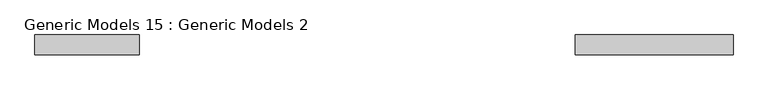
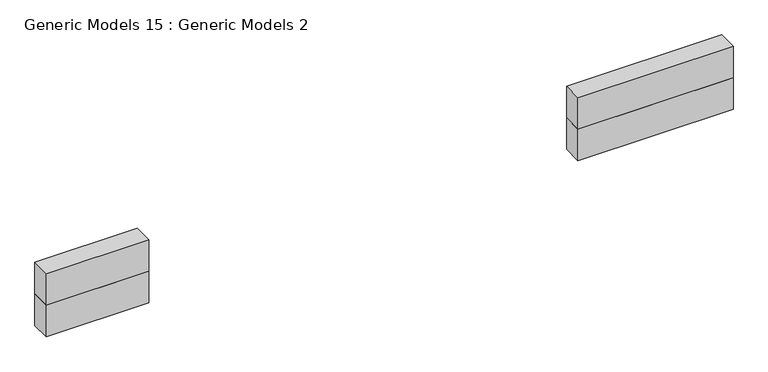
"""IFC4 building model written with IfcOpenShell, lengths in millimetres: proxy geometry, Generic Models 15 : Generic Models 2."""

import ifcopenshell
import ifcopenshell.guid

model = None  # the IFC model being written
_history = None  # IfcOwnerHistory: only IFC2X3 demands one
_inside = {}  # id of a spatial element -> (the spatial element, [elements in it])
_under = {}  # id of a project, library or spatial element -> (it, [spatial elements below it])
_declared = {}  # id of a project -> (the project, [libraries it declares])
_typed = {}  # id of a type object -> (the type object, [elements of that type])
_made_of = {}  # id of a material, layer set ... -> (it, [elements and type objects made of it])


def new_model(schema):
    """Start an empty IFC model of exactly this schema.

    Asked for "IFC4X3", IfcOpenShell would pick the latest addendum, in which some entities
    have other attributes; the version numbers below select the first issue.
    IFC2X3 requires an IfcOwnerHistory on every rooted entity: one is made here for all.
    """
    global model, _history
    if schema == "IFC4X3":
        model = ifcopenshell.file(schema_version=(4, 3, 0, 0))
    else:
        model = ifcopenshell.file(schema=schema)
    _inside.clear()
    _under.clear()
    _declared.clear()
    _typed.clear()
    _made_of.clear()
    _history = None
    if model.schema == "IFC2X3":
        org = make("IfcOrganization", Name="unknown")
        user = make(
            "IfcPersonAndOrganization",
            ThePerson=make("IfcPerson", FamilyName="unknown"),
            TheOrganization=org,
        )
        app = make(
            "IfcApplication",
            ApplicationDeveloper=org,
            Version="unknown",
            ApplicationFullName="unknown",
            ApplicationIdentifier="unknown",
        )
        _history = make(
            "IfcOwnerHistory",
            OwningUser=user,
            OwningApplication=app,
            ChangeAction="ADDED",
            CreationDate=0,
        )
    return model


def make(cls, **values):
    """One entity of the class cls with the attributes given. An attribute that is None is left unset."""
    return model.create_entity(
        cls, **{name: value for name, value in values.items() if value is not None}
    )


def rooted(cls, **values):
    """An entity with a GlobalId (a new one), such as an element, a storey or a relation."""
    return make(cls, GlobalId=ifcopenshell.guid.new(), OwnerHistory=_history, **values)


def si_unit(unit_type, name, prefix=None):
    """IfcSIUnit, for example si_unit("LENGTHUNIT", "METRE", prefix="MILLI")."""
    return make("IfcSIUnit", UnitType=unit_type, Prefix=prefix, Name=name)


def assignment(units):
    """IfcUnitAssignment: the units of a project."""
    return None if units is None else make("IfcUnitAssignment", Units=units)


def point(xyz):
    """IfcCartesianPoint."""
    return None if xyz is None else make("IfcCartesianPoint", Coordinates=xyz)


def direction(xyz):
    """IfcDirection."""
    return None if xyz is None else make("IfcDirection", DirectionRatios=xyz)


def frame(location, z_axis=None, x_axis=None):
    """IfcAxis2Placement3D, a coordinate frame: its origin and axes. An axis left out is left unset."""
    return make(
        "IfcAxis2Placement3D",
        Location=point(location),
        Axis=direction(z_axis),
        RefDirection=direction(x_axis),
    )


def origin():
    """The frame at (0, 0, 0) with its axes left unset."""
    return frame((0.0, 0.0, 0.0))


def place(relative_to, where):
    """IfcLocalPlacement: puts the frame where relative to a parent placement (None: the world)."""
    return make(
        "IfcLocalPlacement", PlacementRelTo=relative_to, RelativePlacement=where
    )


def context(
    kind, dimensions, precision=None, world=None, true_north=None, identifier=None
):
    """IfcGeometricRepresentationContext, for example the 3D "Model" context."""
    return make(
        "IfcGeometricRepresentationContext",
        ContextIdentifier=identifier,
        ContextType=kind,
        CoordinateSpaceDimension=dimensions,
        Precision=precision,
        WorldCoordinateSystem=world,
        TrueNorth=true_north,
    )


def project(units=None, contexts=None):
    """IfcProject with its units and contexts."""
    return rooted(
        "IfcProject",
        Name="project",
        RepresentationContexts=contexts,
        UnitsInContext=assignment(units),
    )


def spatial(cls, under=None, at=None, **own):
    """A site, building, storey or space (cls), placed at a placement, below another one or the project."""
    s = rooted(cls, ObjectPlacement=at, **own)
    if under is not None:
        _under.setdefault(under.id(), (under, []))[1].append(s)
    return s


def polyline(points):
    """IfcPolyline through the points."""
    return make("IfcPolyline", Points=[point(p) for p in points])


def outline(outer, holes=None, kind="AREA"):
    """IfcArbitraryClosedProfileDef: a profile drawn as a closed curve; with holes, ...WithVoids."""
    if holes is None:
        return make("IfcArbitraryClosedProfileDef", ProfileType=kind, OuterCurve=outer)
    return make(
        "IfcArbitraryProfileDefWithVoids",
        ProfileType=kind,
        OuterCurve=outer,
        InnerCurves=holes,
    )


def extrude(swept, where, along, depth):
    """IfcExtrudedAreaSolid: the profile swept, set in the frame where, extruded along a direction by depth."""
    return make(
        "IfcExtrudedAreaSolid",
        SweptArea=swept,
        Position=where,
        ExtrudedDirection=direction(along),
        Depth=depth,
    )


def shape(context_of_items, identifier, shape_type, items):
    """IfcShapeRepresentation: the items that make up one representation, for example the "Body"."""
    return make(
        "IfcShapeRepresentation",
        ContextOfItems=context_of_items,
        RepresentationIdentifier=identifier,
        RepresentationType=shape_type,
        Items=items,
    )


def source(mapping_origin, context_of_items, identifier, shape_type, items):
    """IfcRepresentationMap: a shape defined once, which mapped items show again and again."""
    return make(
        "IfcRepresentationMap",
        MappingOrigin=mapping_origin,
        MappedRepresentation=shape(context_of_items, identifier, shape_type, items),
    )


def transform(
    local_origin,
    x_axis=None,
    y_axis=None,
    z_axis=None,
    scale=None,
    scale2=None,
    scale3=None,
    uniform=True,
):
    """IfcCartesianTransformationOperator3D, or its non-uniform kind. x_axis, y_axis, z_axis: its Axis1, 2, 3."""
    if uniform:
        return make(
            "IfcCartesianTransformationOperator3D",
            Axis1=direction(x_axis),
            Axis2=direction(y_axis),
            LocalOrigin=point(local_origin),
            Scale=scale,
            Axis3=direction(z_axis),
        )
    return make(
        "IfcCartesianTransformationOperator3DnonUniform",
        Axis1=direction(x_axis),
        Axis2=direction(y_axis),
        LocalOrigin=point(local_origin),
        Scale=scale,
        Axis3=direction(z_axis),
        Scale2=scale2,
        Scale3=scale3,
    )


def mapped(mapping_source, mapping_target):
    """IfcMappedItem: shows the shape of a source again, moved by a transform."""
    return make(
        "IfcMappedItem", MappingSource=mapping_source, MappingTarget=mapping_target
    )


def made_of(thing, what):
    """Note that an element or type object is made of a material, layer set ...; save() writes the relation."""
    if what is not None:
        _made_of.setdefault(what.id(), (what, []))[1].append(thing)
    return thing


def element(
    cls,
    number,
    at=None,
    inside=None,
    cuts=None,
    type_object=None,
    material=None,
    context=None,
    identifier="Body",
    shape_type=None,
    held_by="IfcProductDefinitionShape",
    body=None,
    shapes=None,
    **own,
):
    """One element of the class cls, such as IfcWall. Its Tag is "e" and its number.

    at: its placement. inside: the storey or other place that contains it. cuts: it is an
    opening in that element (IfcRelVoidsElement). A single representation is given by context,
    identifier, shape_type and body (its items); several are given by shapes. held_by: the class
    of the entity that holds the representations. save() writes the other relations.
    """
    e = rooted(cls, Tag="e%d" % number, ObjectPlacement=at, **own)
    if body is not None:
        shapes = [shape(context, identifier, shape_type, body)]
    if shapes is not None:
        e.Representation = make(held_by, Representations=shapes)
    if inside is not None:
        _inside.setdefault(inside.id(), (inside, []))[1].append(e)
    if cuts is not None:
        rooted(
            "IfcRelVoidsElement", RelatingBuildingElement=cuts, RelatedOpeningElement=e
        )
    if type_object is not None:
        _typed.setdefault(type_object.id(), (type_object, []))[1].append(e)
    return made_of(e, material)


def aggregate(whole, parts):
    """IfcRelAggregates: a whole, such as a stair, and the parts it consists of."""
    return rooted("IfcRelAggregates", RelatingObject=whole, RelatedObjects=parts)


def save(model, path):
    """Write the relations noted so far, then the file.

    IfcRelAggregates (storeys below a building ...), IfcRelContainedInSpatialStructure (elements
    in a storey), IfcRelDefinesByType, IfcRelAssociatesMaterial and IfcRelDeclares: one each for
    every whole, place, type object, material and project.
    """
    for whole, parts in _under.values():
        aggregate(whole, parts)
    for where, things in _inside.values():
        rooted(
            "IfcRelContainedInSpatialStructure",
            RelatedElements=things,
            RelatingStructure=where,
        )
    for kind, things in _typed.values():
        rooted("IfcRelDefinesByType", RelatedObjects=things, RelatingType=kind)
    for what, things in _made_of.values():
        rooted("IfcRelAssociatesMaterial", RelatedObjects=things, RelatingMaterial=what)
    for by, libraries in _declared.values():
        rooted("IfcRelDeclares", RelatingContext=by, RelatedDefinitions=libraries)
    model.write(path)


def generic_models_15_generic_models_2_c558fc42(model_context):
    return source(origin(), model_context, "Body", "SweptSolid", [
        extrude(outline(polyline([(-10085.4354417, -4047.6885624), (-11118.5171482, -4047.6885624), (-11118.5171482, -3849.4449025), (-10085.4354417, -3849.4449025), (-10085.4354417, -4047.6885624)])), frame((0.0, 0.0, 12000.0), z_axis=(0.0, 0.0, 1.0), x_axis=(1.0, 0.0, 0.0)), (0.0, 0.0, 1.0), 336.4),
        extrude(outline(polyline([(-10085.4354417, -4047.6885624), (-11118.5171482, -4047.6885624), (-11118.5171482, -3849.4449025), (-10085.4354417, -3849.4449025), (-10085.4354417, -4047.6885624)])), frame((0.0, 0.0, 12336.4), z_axis=(0.0, 0.0, 1.0), x_axis=(1.0, 0.0, 0.0)), (0.0, 0.0, 1.0), 336.4),
        extrude(outline(polyline([(-4200.0, -4047.6885624), (-5763.3274035, -4047.6885624), (-5763.3274035, -3849.4449025), (-4200.0, -3849.4449025), (-4200.0, -4047.6885624)])), frame((0.0, 0.0, 12000.0), z_axis=(0.0, 0.0, 1.0), x_axis=(1.0, 0.0, 0.0)), (0.0, 0.0, 1.0), 336.4),
        extrude(outline(polyline([(-4200.0, -4047.6885624), (-5763.3274035, -4047.6885624), (-5763.3274035, -3849.4449025), (-4200.0, -3849.4449025), (-4200.0, -4047.6885624)])), frame((0.0, 0.0, 12336.4), z_axis=(0.0, 0.0, 1.0), x_axis=(1.0, 0.0, 0.0)), (0.0, 0.0, 1.0), 336.4),
    ])


if __name__ == "__main__":
    model = new_model("IFC4")
    model_context = context("Model", 3, world=origin())
    ifc_project = project(units=[si_unit("LENGTHUNIT", "METRE", prefix="MILLI")], contexts=[model_context])
    site = spatial("IfcSite", under=ifc_project)
    building = spatial("IfcBuilding", under=site)
    placement = place(None, origin())
    generic_models_15_generic_models_2_shape = generic_models_15_generic_models_2_c558fc42(model_context)
    element("IfcBuildingElementProxy", 1, Name="Generic Models 15 : Generic Models 2", ObjectType="Generic Models 15 : Generic Models 2", at=placement, inside=building, context=model_context, shape_type="MappedRepresentation", body=[
        mapped(generic_models_15_generic_models_2_shape, transform((0.0, 0.0, 0.0), x_axis=(1.0, 0.0, 0.0), y_axis=(0.0, 1.0, 0.0), z_axis=(0.0, 0.0, 1.0))),
    ])
    save(model, "model.ifc")
